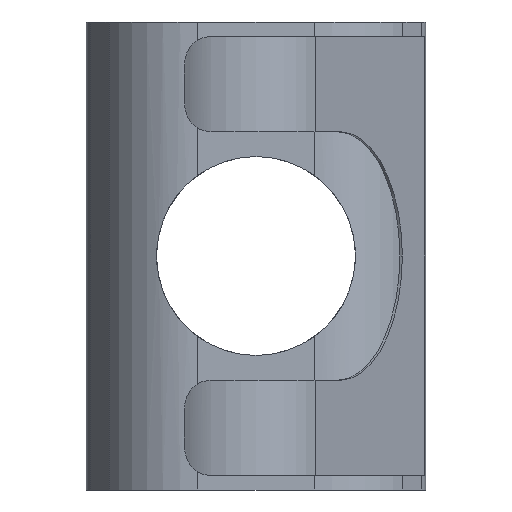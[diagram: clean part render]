
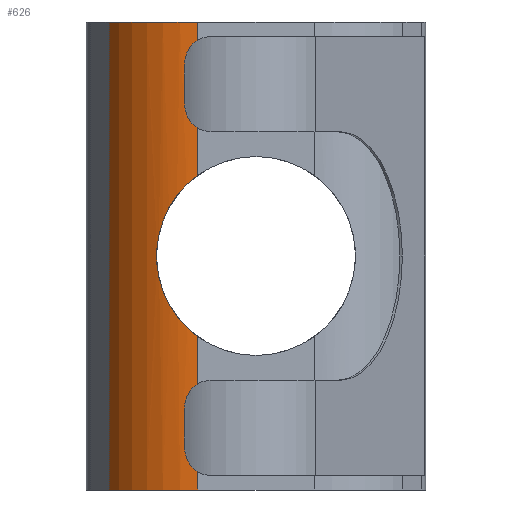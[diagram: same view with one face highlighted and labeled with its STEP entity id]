
A CAD part, front view. The second image highlights one B-rep face of the part: STEP entity #626.
In plain terms, the highlighted cylindrical face has radius 3.5 mm (diameter 7 mm), a partial arc.
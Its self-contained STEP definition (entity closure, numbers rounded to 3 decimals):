
#23 = VERTEX_POINT ( 'NONE', #1974 ) ;
#30 = VERTEX_POINT ( 'NONE', #1983 ) ;
#364 = DIRECTION ( 'NONE',  ( 0., 0., -1. ) ) ;
#365 = DIRECTION ( 'NONE',  ( -1., 0., 0. ) ) ;
#367 = CARTESIAN_POINT ( 'NONE',  ( -1.989, -1.1, 8. ) ) ;
#542 = EDGE_CURVE ( 'NONE', #30, #1777, #1185, .T. ) ;
#564 = EDGE_CURVE ( 'NONE', #1769, #2364, #1207, .T. ) ;
#582 = EDGE_CURVE ( 'NONE', #2364, #30, #1451, .T. ) ;
#619 = EDGE_CURVE ( 'NONE', #1777, #23, #778, .T. ) ;
#626 = ADVANCED_FACE ( 'NONE', ( #1246 ), #1247, .T. ) ;
#636 = EDGE_CURVE ( 'NONE', #23, #1771, #1259, .T. ) ;
#662 = EDGE_CURVE ( 'NONE', #1771, #1769, #882, .T. ) ;
#778 = CIRCLE ( 'NONE', #789, 3.5 ) ;
#789 = AXIS2_PLACEMENT_3D ( 'NONE', #1725, #1723, #1724 ) ;
#797 = AXIS2_PLACEMENT_3D ( 'NONE', #367, #364, #365 ) ;
#810 = VECTOR ( 'NONE', #911, 1000. ) ;
#882 = B_SPLINE_CURVE_WITH_KNOTS ( 'NONE', 3,
 ( #2102, #2103, #2104, #2105, #2106, #2107, #2108, #2109, #2110, #2111, #2112, #2113, #2114, #2115, #2116, #2117, #2118, #2119, #2120, #2121, #2122, #2123 ),
 .UNSPECIFIED., .F., .F.,
 ( 4, 2, 2, 2, 2, 2, 2, 2, 2, 2, 4 ),
 ( 0., 0.001, 0.002, 0.002, 0.002, 0.003, 0.004, 0.004, 0.005, 0.006, 0.006 ),
 .UNSPECIFIED. ) ;
#911 = DIRECTION ( 'NONE',  ( 0., 0., -1. ) ) ;
#1011 = DIRECTION ( 'NONE',  ( 0., 0., 1. ) ) ;
#1013 = CARTESIAN_POINT ( 'NONE',  ( -5.021, -2.85, 8. ) ) ;
#1040 = DIRECTION ( 'NONE',  ( 0., 0., -1. ) ) ;
#1041 = CARTESIAN_POINT ( 'NONE',  ( -1.989, -4.6, 8. ) ) ;
#1185 = LINE ( 'NONE', #1013, #1413 ) ;
#1207 = LINE ( 'NONE', #1041, #1438 ) ;
#1246 = FACE_OUTER_BOUND ( 'NONE', #2286, .T. ) ;
#1247 = CYLINDRICAL_SURFACE ( 'NONE', #797, 3.5 ) ;
#1259 = LINE ( 'NONE', #1764, #810 ) ;
#1413 = VECTOR ( 'NONE', #1011, 1000. ) ;
#1438 = VECTOR ( 'NONE', #1040, 1000. ) ;
#1451 = CIRCLE ( 'NONE', #1453, 3.5 ) ;
#1453 = AXIS2_PLACEMENT_3D ( 'NONE', #1854, #1866, #1837 ) ;
#1479 = ORIENTED_EDGE ( 'NONE', *, *, #662, .F. ) ;
#1481 = ORIENTED_EDGE ( 'NONE', *, *, #542, .F. ) ;
#1534 = ORIENTED_EDGE ( 'NONE', *, *, #564, .F. ) ;
#1539 = ORIENTED_EDGE ( 'NONE', *, *, #619, .F. ) ;
#1540 = ORIENTED_EDGE ( 'NONE', *, *, #582, .F. ) ;
#1635 = ORIENTED_EDGE ( 'NONE', *, *, #636, .F. ) ;
#1723 = DIRECTION ( 'NONE',  ( 0., 0., 1. ) ) ;
#1724 = DIRECTION ( 'NONE',  ( 1., 0., 0. ) ) ;
#1725 = CARTESIAN_POINT ( 'NONE',  ( -1.989, -1.1, 8. ) ) ;
#1764 = CARTESIAN_POINT ( 'NONE',  ( -1.989, -4.6, 8. ) ) ;
#1769 = VERTEX_POINT ( 'NONE', #2254 ) ;
#1771 = VERTEX_POINT ( 'NONE', #2256 ) ;
#1777 = VERTEX_POINT ( 'NONE', #2262 ) ;
#1837 = DIRECTION ( 'NONE',  ( 1., 0., 0. ) ) ;
#1854 = CARTESIAN_POINT ( 'NONE',  ( -1.989, -1.1, -8. ) ) ;
#1866 = DIRECTION ( 'NONE',  ( 0., 0., -1. ) ) ;
#1974 = CARTESIAN_POINT ( 'NONE',  ( -1.989, -4.6, 8. ) ) ;
#1983 = CARTESIAN_POINT ( 'NONE',  ( -5.021, -2.85, -8. ) ) ;
#2102 = CARTESIAN_POINT ( 'NONE',  ( -1.989, -4.6, 2.757 ) ) ;
#2103 = CARTESIAN_POINT ( 'NONE',  ( -2.21, -4.6, 2.598 ) ) ;
#2104 = CARTESIAN_POINT ( 'NONE',  ( -2.407, -4.58, 2.417 ) ) ;
#2105 = CARTESIAN_POINT ( 'NONE',  ( -2.754, -4.52, 2.011 ) ) ;
#2106 = CARTESIAN_POINT ( 'NONE',  ( -2.905, -4.48, 1.786 ) ) ;
#2107 = CARTESIAN_POINT ( 'NONE',  ( -3.087, -4.424, 1.432 ) ) ;
#2108 = CARTESIAN_POINT ( 'NONE',  ( -3.14, -4.406, 1.31 ) ) ;
#2109 = CARTESIAN_POINT ( 'NONE',  ( -3.234, -4.372, 1.059 ) ) ;
#2110 = CARTESIAN_POINT ( 'NONE',  ( -3.273, -4.356, 0.929 ) ) ;
#2111 = CARTESIAN_POINT ( 'NONE',  ( -3.368, -4.318, 0.539 ) ) ;
#2112 = CARTESIAN_POINT ( 'NONE',  ( -3.4, -4.303, 0.274 ) ) ;
#2113 = CARTESIAN_POINT ( 'NONE',  ( -3.4, -4.303, -0.131 ) ) ;
#2114 = CARTESIAN_POINT ( 'NONE',  ( -3.392, -4.307, -0.268 ) ) ;
#2115 = CARTESIAN_POINT ( 'NONE',  ( -3.36, -4.32, -0.534 ) ) ;
#2116 = CARTESIAN_POINT ( 'NONE',  ( -3.337, -4.33, -0.666 ) ) ;
#2117 = CARTESIAN_POINT ( 'NONE',  ( -3.243, -4.369, -1.056 ) ) ;
#2118 = CARTESIAN_POINT ( 'NONE',  ( -3.149, -4.405, -1.311 ) ) ;
#2119 = CARTESIAN_POINT ( 'NONE',  ( -2.906, -4.48, -1.784 ) ) ;
#2120 = CARTESIAN_POINT ( 'NONE',  ( -2.757, -4.519, -2.007 ) ) ;
#2121 = CARTESIAN_POINT ( 'NONE',  ( -2.407, -4.58, -2.416 ) ) ;
#2122 = CARTESIAN_POINT ( 'NONE',  ( -2.21, -4.6, -2.598 ) ) ;
#2123 = CARTESIAN_POINT ( 'NONE',  ( -1.989, -4.6, -2.757 ) ) ;
#2254 = CARTESIAN_POINT ( 'NONE',  ( -1.989, -4.6, -2.757 ) ) ;
#2256 = CARTESIAN_POINT ( 'NONE',  ( -1.989, -4.6, 2.757 ) ) ;
#2262 = CARTESIAN_POINT ( 'NONE',  ( -5.021, -2.85, 8. ) ) ;
#2286 = EDGE_LOOP ( 'NONE', ( #1479, #1635, #1539, #1481, #1540, #1534 ) ) ;
#2294 = CARTESIAN_POINT ( 'NONE',  ( -1.989, -4.6, -8. ) ) ;
#2364 = VERTEX_POINT ( 'NONE', #2294 ) ;
